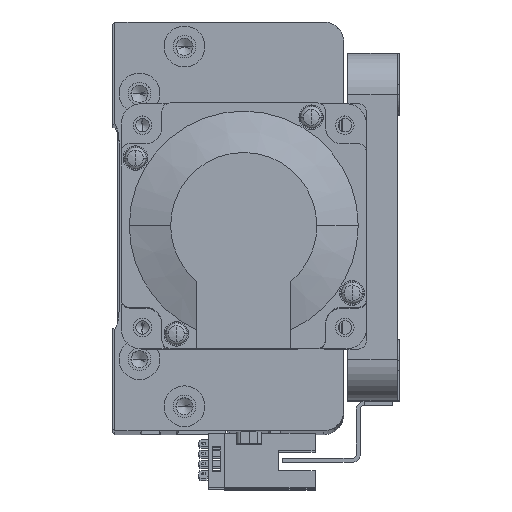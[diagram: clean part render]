
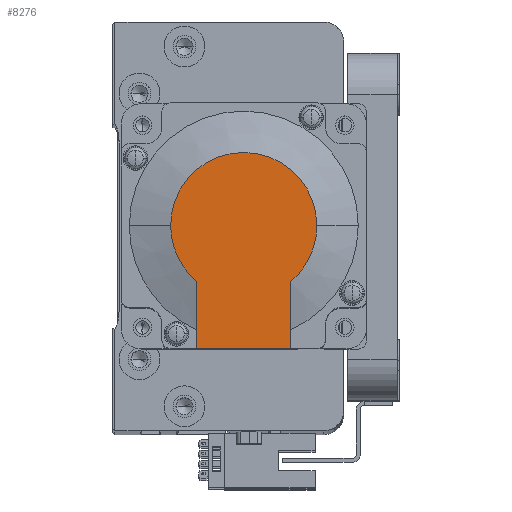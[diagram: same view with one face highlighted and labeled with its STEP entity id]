
A CAD part, top view. The second image highlights one B-rep face of the part: STEP entity #8276.
In plain terms, the highlighted planar face has unit normal (0, 0, 1) as drawn and (-1, 0, 0) by its records, which use the part's own axes.
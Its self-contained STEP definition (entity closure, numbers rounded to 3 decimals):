
#991 = DIRECTION ( 'NONE',  ( -1., 0., 0. ) ) ;
#2856 = EDGE_LOOP ( 'NONE', ( #9000, #13257, #10287, #24280, #27143, #47870 ) ) ;
#3224 = AXIS2_PLACEMENT_3D ( 'NONE', #42359, #18419, #46354 ) ;
#3230 = CIRCLE ( 'NONE', #30409, 17.881 ) ;
#3429 = VERTEX_POINT ( 'NONE', #46105 ) ;
#4879 = CARTESIAN_POINT ( 'NONE',  ( -118.5, 0., 0. ) ) ;
#5663 = VERTEX_POINT ( 'NONE', #44365 ) ;
#8276 = ADVANCED_FACE ( 'NONE', ( #46486 ), #28688, .T. ) ;
#8800 = VERTEX_POINT ( 'NONE', #13223 ) ;
#8874 = DIRECTION ( 'NONE',  ( 0., 0., -1. ) ) ;
#9000 = ORIENTED_EDGE ( 'NONE', *, *, #30483, .T. ) ;
#10152 = LINE ( 'NONE', #31874, #19479 ) ;
#10287 = ORIENTED_EDGE ( 'NONE', *, *, #12066, .T. ) ;
#11505 = CARTESIAN_POINT ( 'NONE',  ( -118.5, 0., 17.881 ) ) ;
#12066 = EDGE_CURVE ( 'NONE', #8800, #49487, #3230, .T. ) ;
#13223 = CARTESIAN_POINT ( 'NONE',  ( -118.5, 0., -17.881 ) ) ;
#13257 = ORIENTED_EDGE ( 'NONE', *, *, #47631, .T. ) ;
#18419 = DIRECTION ( 'NONE',  ( -1., 0., 0. ) ) ;
#18589 = CARTESIAN_POINT ( 'NONE',  ( -118.5, 13.735, -11.45 ) ) ;
#19479 = VECTOR ( 'NONE', #44007, 1000. ) ;
#19965 = VERTEX_POINT ( 'NONE', #27683 ) ;
#20830 = EDGE_CURVE ( 'NONE', #19965, #5663, #40924, .T. ) ;
#23665 = CARTESIAN_POINT ( 'NONE',  ( -118.5, 0., 0. ) ) ;
#24280 = ORIENTED_EDGE ( 'NONE', *, *, #32314, .T. ) ;
#24860 = CARTESIAN_POINT ( 'NONE',  ( -118.5, -8.941, 0. ) ) ;
#25111 = CARTESIAN_POINT ( 'NONE',  ( -118.5, 0., 11.45 ) ) ;
#27143 = ORIENTED_EDGE ( 'NONE', *, *, #20830, .F. ) ;
#27683 = CARTESIAN_POINT ( 'NONE',  ( -118.5, 30., 11.45 ) ) ;
#27696 = DIRECTION ( 'NONE',  ( 0., 0., -1. ) ) ;
#28688 = PLANE ( 'NONE',  #40974 ) ;
#28852 = DIRECTION ( 'NONE',  ( 0., 0., 1. ) ) ;
#29944 = LINE ( 'NONE', #34058, #31188 ) ;
#30409 = AXIS2_PLACEMENT_3D ( 'NONE', #23665, #51711, #27696 ) ;
#30483 = EDGE_CURVE ( 'NONE', #3429, #39069, #10152, .T. ) ;
#31188 = VECTOR ( 'NONE', #38111, 1000. ) ;
#31874 = CARTESIAN_POINT ( 'NONE',  ( -118.5, -8.941, -11.45 ) ) ;
#32314 = EDGE_CURVE ( 'NONE', #49487, #5663, #44708, .T. ) ;
#32356 = CIRCLE ( 'NONE', #3224, 17.881 ) ;
#32729 = DIRECTION ( 'NONE',  ( -1., 0., 0. ) ) ;
#34058 = CARTESIAN_POINT ( 'NONE',  ( -118.5, 30., 25. ) ) ;
#38111 = DIRECTION ( 'NONE',  ( 0., 0., 1. ) ) ;
#39069 = VERTEX_POINT ( 'NONE', #18589 ) ;
#40924 = LINE ( 'NONE', #25111, #51606 ) ;
#40974 = AXIS2_PLACEMENT_3D ( 'NONE', #24860, #991, #28852 ) ;
#42359 = CARTESIAN_POINT ( 'NONE',  ( -118.5, 0., 0. ) ) ;
#43936 = AXIS2_PLACEMENT_3D ( 'NONE', #4879, #32729, #8874 ) ;
#44007 = DIRECTION ( 'NONE',  ( 0., -1., 0. ) ) ;
#44365 = CARTESIAN_POINT ( 'NONE',  ( -118.5, 13.735, 11.45 ) ) ;
#44708 = CIRCLE ( 'NONE', #43936, 17.881 ) ;
#46105 = CARTESIAN_POINT ( 'NONE',  ( -118.5, 30., -11.45 ) ) ;
#46354 = DIRECTION ( 'NONE',  ( 0., 0., -1. ) ) ;
#46486 = FACE_OUTER_BOUND ( 'NONE', #2856, .T. ) ;
#47631 = EDGE_CURVE ( 'NONE', #39069, #8800, #32356, .T. ) ;
#47870 = ORIENTED_EDGE ( 'NONE', *, *, #51342, .F. ) ;
#49104 = DIRECTION ( 'NONE',  ( 0., -1., 0. ) ) ;
#49487 = VERTEX_POINT ( 'NONE', #11505 ) ;
#51342 = EDGE_CURVE ( 'NONE', #3429, #19965, #29944, .T. ) ;
#51606 = VECTOR ( 'NONE', #49104, 1000. ) ;
#51711 = DIRECTION ( 'NONE',  ( -1., 0., 0. ) ) ;
